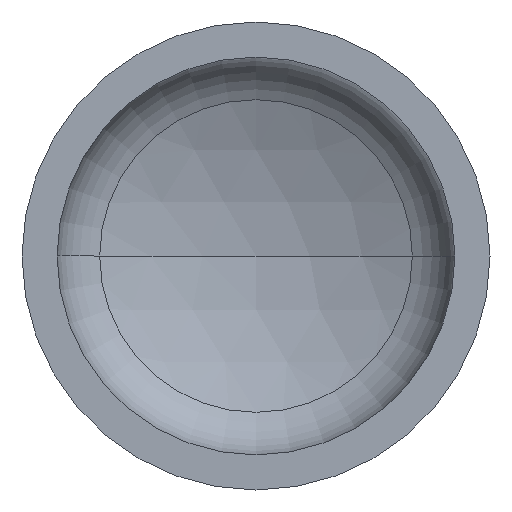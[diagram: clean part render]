
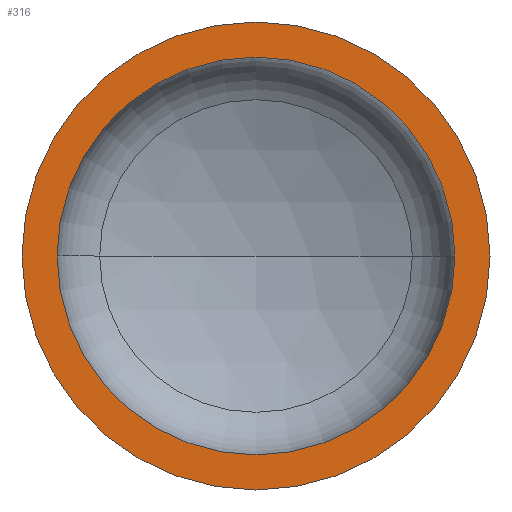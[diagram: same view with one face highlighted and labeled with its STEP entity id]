
A CAD part, front view. The second image highlights one B-rep face of the part: STEP entity #316.
In plain terms, the highlighted planar face has unit normal (0, -1, 0).
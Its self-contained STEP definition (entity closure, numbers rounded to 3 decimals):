
#18 = ORIENTED_EDGE ( 'NONE', *, *, #352, .F. ) ;
#28 = AXIS2_PLACEMENT_3D ( 'NONE', #384, #387, #79 ) ;
#31 = AXIS2_PLACEMENT_3D ( 'NONE', #342, #206, #369 ) ;
#50 = VERTEX_POINT ( 'NONE', #249 ) ;
#55 = EDGE_LOOP ( 'NONE', ( #97, #18 ) ) ;
#57 = ORIENTED_EDGE ( 'NONE', *, *, #389, .T. ) ;
#58 = EDGE_LOOP ( 'NONE', ( #57, #95 ) ) ;
#69 = VERTEX_POINT ( 'NONE', #243 ) ;
#73 = PLANE ( 'NONE',  #28 ) ;
#79 = DIRECTION ( 'NONE',  ( -1., 0., 0. ) ) ;
#85 = VERTEX_POINT ( 'NONE', #381 ) ;
#94 = FACE_OUTER_BOUND ( 'NONE', #58, .T. ) ;
#95 = ORIENTED_EDGE ( 'NONE', *, *, #146, .T. ) ;
#97 = ORIENTED_EDGE ( 'NONE', *, *, #149, .F. ) ;
#111 = VERTEX_POINT ( 'NONE', #219 ) ;
#128 = AXIS2_PLACEMENT_3D ( 'NONE', #364, #310, #309 ) ;
#140 = AXIS2_PLACEMENT_3D ( 'NONE', #348, #337, #336 ) ;
#146 = EDGE_CURVE ( 'NONE', #111, #85, #409, .T. ) ;
#149 = EDGE_CURVE ( 'NONE', #50, #69, #230, .T. ) ;
#198 = AXIS2_PLACEMENT_3D ( 'NONE', #282, #372, #232 ) ;
#206 = DIRECTION ( 'NONE',  ( 0., -1., 0. ) ) ;
#219 = CARTESIAN_POINT ( 'NONE',  ( -400., 0., 0. ) ) ;
#225 = CIRCLE ( 'NONE', #198, 400. ) ;
#230 = CIRCLE ( 'NONE', #128, 340. ) ;
#232 = DIRECTION ( 'NONE',  ( 1., 0., 0. ) ) ;
#243 = CARTESIAN_POINT ( 'NONE',  ( -340., 0., 0. ) ) ;
#249 = CARTESIAN_POINT ( 'NONE',  ( 340., 0., 0. ) ) ;
#282 = CARTESIAN_POINT ( 'NONE',  ( 0., 0., 0. ) ) ;
#309 = DIRECTION ( 'NONE',  ( 1., 0., 0. ) ) ;
#310 = DIRECTION ( 'NONE',  ( 0., -1., 0. ) ) ;
#311 = CIRCLE ( 'NONE', #31, 340. ) ;
#316 = ADVANCED_FACE ( 'NONE', ( #388, #94 ), #73, .F. ) ;
#336 = DIRECTION ( 'NONE',  ( 1., 0., 0. ) ) ;
#337 = DIRECTION ( 'NONE',  ( 0., -1., 0. ) ) ;
#342 = CARTESIAN_POINT ( 'NONE',  ( 0., 0., 0. ) ) ;
#348 = CARTESIAN_POINT ( 'NONE',  ( 0., 0., 0. ) ) ;
#352 = EDGE_CURVE ( 'NONE', #69, #50, #311, .T. ) ;
#364 = CARTESIAN_POINT ( 'NONE',  ( 0., 0., 0. ) ) ;
#369 = DIRECTION ( 'NONE',  ( 1., 0., 0. ) ) ;
#372 = DIRECTION ( 'NONE',  ( 0., -1., 0. ) ) ;
#381 = CARTESIAN_POINT ( 'NONE',  ( 400., 0., 0. ) ) ;
#384 = CARTESIAN_POINT ( 'NONE',  ( -400., 0., 0. ) ) ;
#387 = DIRECTION ( 'NONE',  ( 0., 1., 0. ) ) ;
#388 = FACE_BOUND ( 'NONE', #55, .T. ) ;
#389 = EDGE_CURVE ( 'NONE', #85, #111, #225, .T. ) ;
#409 = CIRCLE ( 'NONE', #140, 400. ) ;
